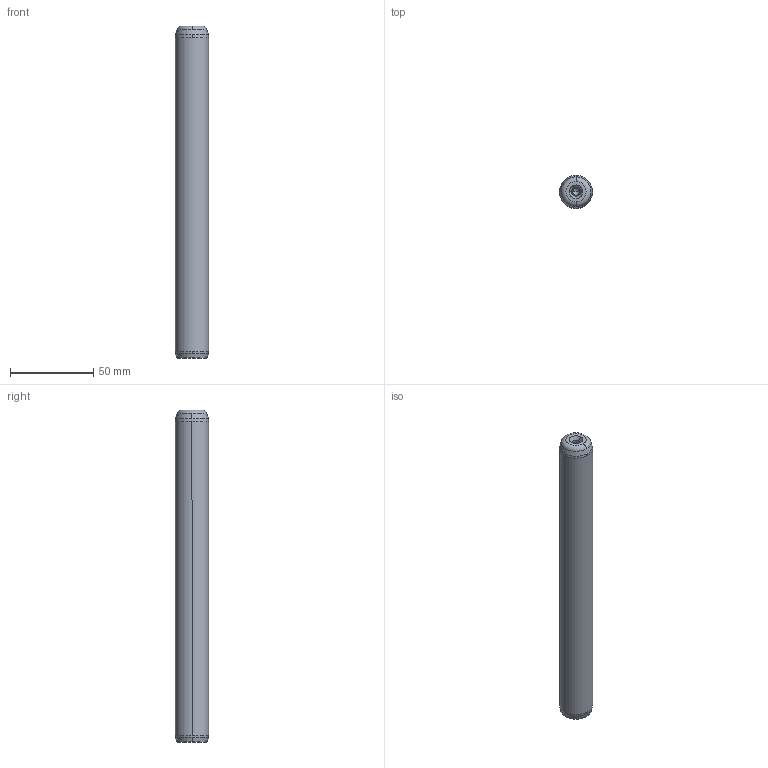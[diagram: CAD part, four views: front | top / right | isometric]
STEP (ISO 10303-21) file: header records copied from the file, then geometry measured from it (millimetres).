
FILE_DESCRIPTION((''),'2;1');
FILE_NAME('P10_020_200.stp','2008-12-23T14:30:00',(''),(''),'Mechanical Desktop 2009','Mechanical Desktop 2009',', , ');
FILE_SCHEMA(('CONFIG_CONTROL_DESIGN'));
Length unit declared in the file: millimetre
Products named in the file (5): Product; ProductAA; blmdl1; ProductA; blmdl1A
Assembly tree (2 placements, depth 3):
  Product
    ProductAA
      blmdl1
  ProductA
  blmdl1A
Bounding box: 20 x 20 x 200 mm (x, y, z)
Volume: 62081.7 mm3; surface area: 13206.8 mm2
Topology: 1 solids, 1 shells, 26 faces, 66 edges, 41 vertices
Faces by surface type: cone 10, cylinder 6, torus 4, bspline 4, plane 2
Entity records: 1172 total; most frequent: CARTESIAN_POINT 310, DIRECTION 162, ORIENTED_EDGE 128, AXIS2_PLACEMENT_3D 73, EDGE_CURVE 64, CIRCLE 48, VERTEX_POINT 41, EDGE_LOOP 27
